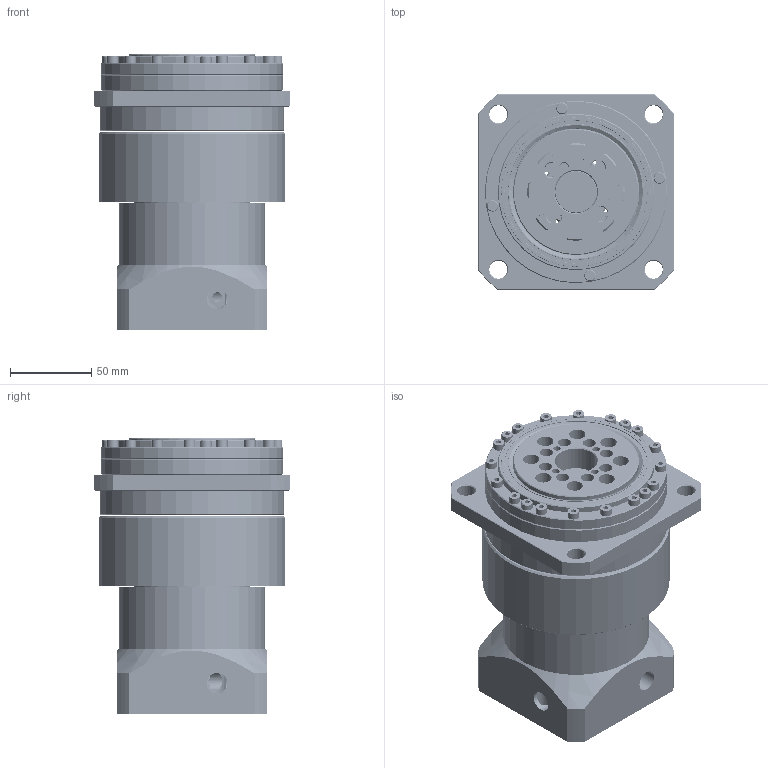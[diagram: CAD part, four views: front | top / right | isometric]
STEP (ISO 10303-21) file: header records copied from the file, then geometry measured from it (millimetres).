
FILE_DESCRIPTION (( 'STEP AP203' ), '1' );
FILE_NAME ('GNDU120L2-19-70-90-M6(20160802).STEP', '2016-08-02T03:52:04', ( 'user' ), ( '' ), 'SwSTEP 2.0', 'SolidWorks 2012', '' );
FILE_SCHEMA (( 'CONFIG_CONTROL_DESIGN' ));
Length unit declared in the file: millimetre
Products named in the file (1): GNDU120L2-19-70-90-M6(20160802)
Bounding box: 120 x 120 x 169.75 mm (x, y, z)
Volume: 926158.1 mm3; surface area: 279073.3 mm2
Topology: 31 solids, 31 shells, 3577 faces, 7715 edges, 4236 vertices
Faces by surface type: cone 2563, cylinder 618, plane 360, torus 34, bspline 2
Entity records: 96777 total; most frequent: DIRECTION 18534, CARTESIAN_POINT 17229, ORIENTED_EDGE 15270, EDGE_CURVE 7635, AXIS2_PLACEMENT_3D 7437, VERTEX_POINT 4236, EDGE_LOOP 3923, CIRCLE 3861
